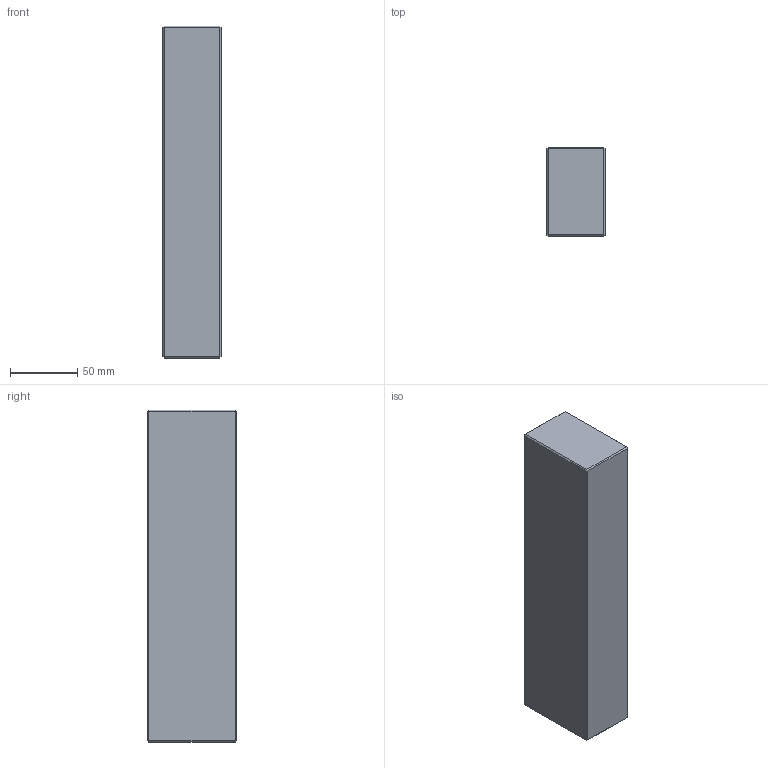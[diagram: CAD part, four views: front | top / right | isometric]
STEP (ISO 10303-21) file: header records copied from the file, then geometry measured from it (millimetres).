
FILE_DESCRIPTION (( 'STEP AP214' ), '1' );
FILE_NAME ('ESP-P-246X246x66.STEP', '2020-04-08T10:32:48', ( 'August' ), ( '' ), 'SwSTEP 2.0', 'SolidWorks 2018', '' );
FILE_SCHEMA (( 'AUTOMOTIVE_DESIGN' ));
Length unit declared in the file: millimetre
Products named in the file (1): ESP-P-246X246x66
Bounding box: 43 x 66 x 246 mm (x, y, z)
Volume: 697443.3 mm3; surface area: 58469.2 mm2
Topology: 1 solids, 1 shells, 26 faces, 48 edges, 24 vertices
Faces by surface type: plane 26
Entity records: 634 total; most frequent: DIRECTION 102, CARTESIAN_POINT 99, ORIENTED_EDGE 96, LINE 48, EDGE_CURVE 48, VECTOR 48, AXIS2_PLACEMENT_3D 27, FACE_OUTER_BOUND 26
